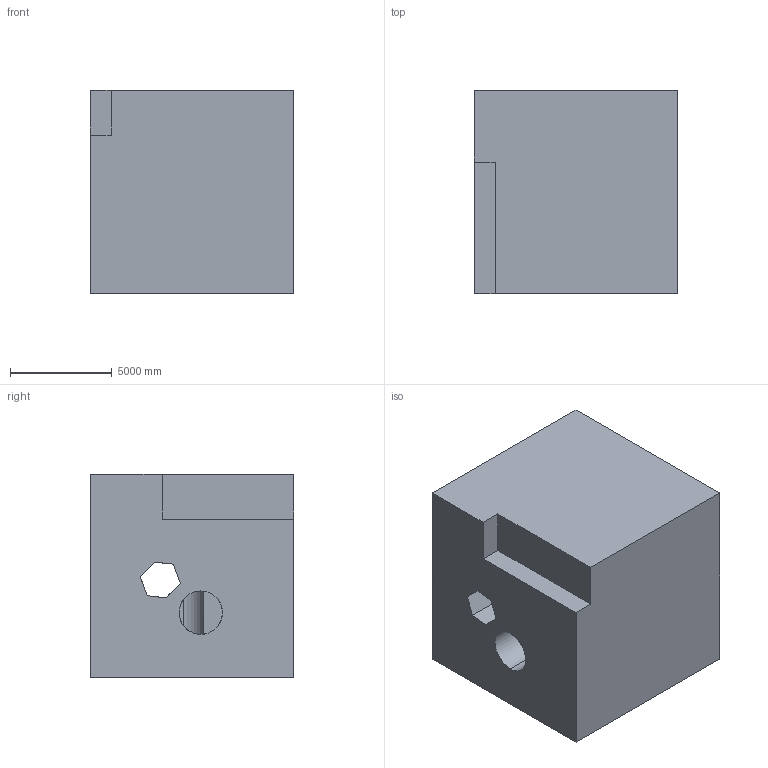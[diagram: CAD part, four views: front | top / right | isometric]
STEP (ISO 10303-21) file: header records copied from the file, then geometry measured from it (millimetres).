
FILE_DESCRIPTION (( 'STEP AP203' ), '1' );
FILE_NAME ('1758.STEP', '2022-08-26T10:34:48', ( 'user' ), ( '' ), 'SwSTEP 2.0', 'SolidWorks 2021', '' );
FILE_SCHEMA (( 'CONFIG_CONTROL_DESIGN' ));
Length unit declared in the file: centimetre
Products named in the file (1): 1758
Bounding box: 10000 x 10000 x 10000 mm (x, y, z)
Volume: 872059455513 mm3; surface area: 743997739.3 mm2
Topology: 1 solids, 1 shells, 38 faces, 120 edges, 80 vertices
Faces by surface type: plane 31, cylinder 7
Entity records: 1857 total; most frequent: CARTESIAN_POINT 723, ORIENTED_EDGE 240, DIRECTION 198, EDGE_CURVE 120, VECTOR 84, LINE 84, VERTEX_POINT 80, AXIS2_PLACEMENT_3D 57
